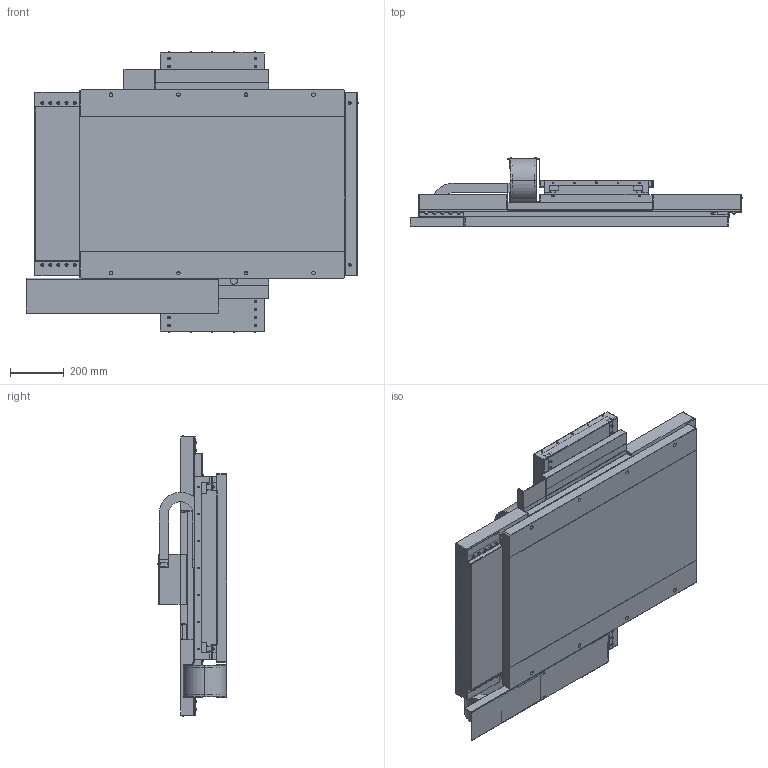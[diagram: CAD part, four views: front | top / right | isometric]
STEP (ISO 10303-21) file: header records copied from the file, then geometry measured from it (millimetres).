
FILE_DESCRIPTION (( 'STEP AP214' ), '1' );
FILE_NAME ('NST-D50B540A5BPJB_#2.00_0.STEP', '2021-04-09T07:29:51', ( '' ), ( '' ), 'SwSTEP 2.0', 'SolidWorks 2018', '' );
FILE_SCHEMA (( 'AUTOMOTIVE_DESIGN' ));
Length unit declared in the file: millimetre
Products named in the file (9): 15UK0010; 14GK0240_JA-側 0; 14GK0250_JA-側 0; 14GK0240_JA+側 0; 15UK0020; AUA02580; AUA02600; NST-D50B540A5BPJB_#2.00_0; AUA02590
Assembly tree (9 placements, depth 2):
  NST-D50B540A5BPJB_#2.00_0
    AUA02580
    AUA02590
    AUA02600
    15UK0010
    15UK0020
    14GK0250_JA-側 0  x2
    14GK0240_JA+側 0
    14GK0240_JA-側 0
Bounding box: 1230 x 258 x 1040 mm (x, y, z)
Volume: 66625721.3 mm3; surface area: 7864615.9 mm2
Topology: 68 solids, 68 shells, 2963 faces, 7514 edges, 4785 vertices
Faces by surface type: plane 1877, cylinder 792, cone 146, torus 96, sphere 48, bspline 4
Entity records: 117577 total; most frequent: CARTESIAN_POINT 19304, DIRECTION 14644, ORIENTED_EDGE 14548, EDGE_CURVE 7274, AXIS2_PLACEMENT_3D 4953, LINE 4738, VECTOR 4738, VERTEX_POINT 4659
